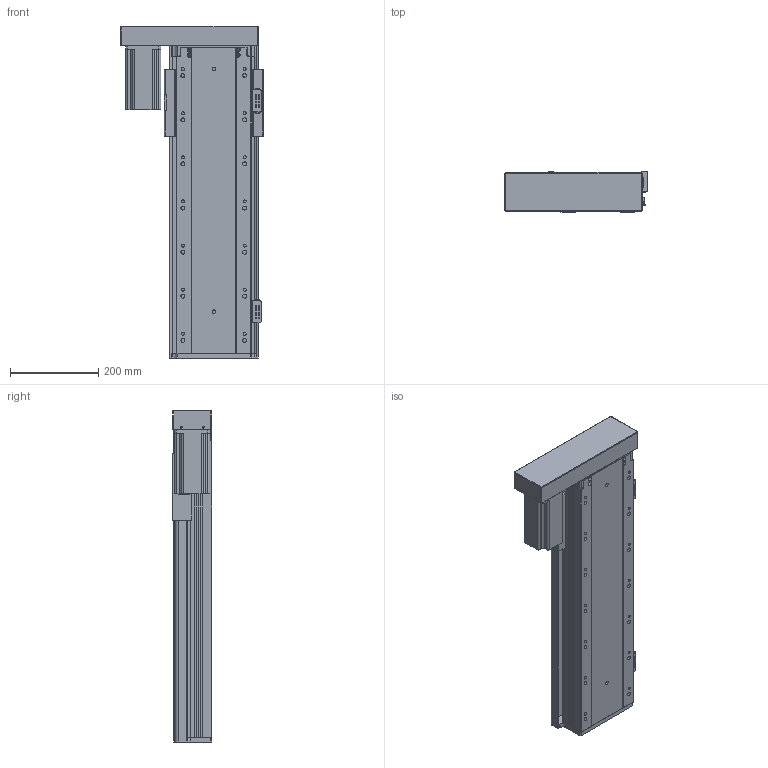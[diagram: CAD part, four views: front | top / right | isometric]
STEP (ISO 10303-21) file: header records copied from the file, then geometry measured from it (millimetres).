
FILE_DESCRIPTION (( 'STEP AP203' ), '1' );
FILE_NAME ('RY170FB-L2020-300-LK.SLDASM_450.step', '2021-02-23T03:02:29', ( '盈信电脑' ), ( '东莞市道滘镇水果街19号' ), 'SwSTEP 2.0', 'SolidWorks 2012', '' );
FILE_SCHEMA (( 'CONFIG_CONTROL_DESIGN' ));
Products named in the file (16): RY170FB-L2020-300-LK.SLDASM_450; RY170FB-左右折电机安装板750W; RY140FB-674嫖萇覜茼え; RY140-674嫖萇耀輸; RY170FB-酘衵殏萇儂欶750W; RY140直线电机感应器674光电安装座; 覜茼ん674; RY170FB-铝滑块(25丝杆）; 怢湛750W萇儂ㄗ80遺ㄘ; RY170FB-300蛌殏奻裔-LK_450; RY170FB-綴裔啣; RY170FB-转折电机端支撑座(7002); 滅袉蝶18-28; 滅袉蝶18-10; RY170FB-300蛌殏倰第菁釱-LK_450
Assembly tree (18 placements, depth 3):
  RY170FB-L2020-300-LK.SLDASM_450
    RY170FB-300蛌殏倰第菁釱-LK_450
    滅袉蝶18-28
    滅袉蝶18-10
    RY170FB-转折电机端支撑座(7002)
    怢湛750W萇儂ㄗ80遺ㄘ
    RY170FB-铝滑块(25丝杆）
    RY170FB-綴裔啣
    RY170FB-300蛌殏奻裔-LK_450
    RY140-674嫖萇耀輸
      覜茼ん674  x2
      RY140直线电机感应器674光电安装座
    RY140-674嫖萇耀輸
      覜茼ん674
      RY140直线电机感应器674光电安装座
    RY140FB-674嫖萇覜茼え
    RY170FB-左右折电机安装板750W
    RY170FB-酘衵殏萇儂欶750W
Bounding box: 323.95 x 90.5 x 752.7 mm (x, y, z)
Volume: 5390515.8 mm3; surface area: 1517045.4 mm2
Topology: 16 solids, 16 shells, 1537 faces, 4358 edges, 2776 vertices
Faces by surface type: cylinder 799, plane 590, cone 140, bspline 8
Entity records: 48735 total; most frequent: CARTESIAN_POINT 11564, ORIENTED_EDGE 7488, DIRECTION 7298, EDGE_CURVE 3744, AXIS2_PLACEMENT_3D 2652, VERTEX_POINT 2456, VECTOR 1994, LINE 1994
